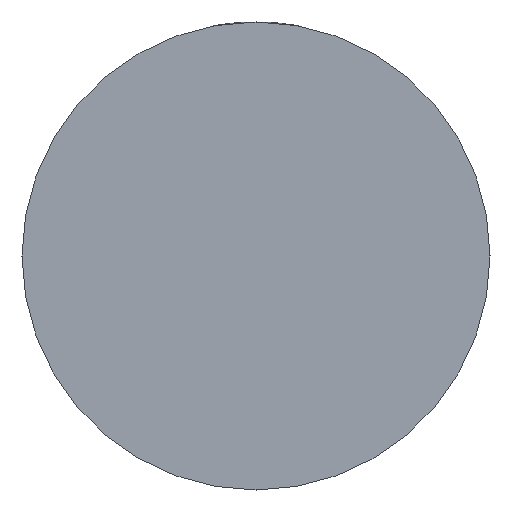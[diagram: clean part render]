
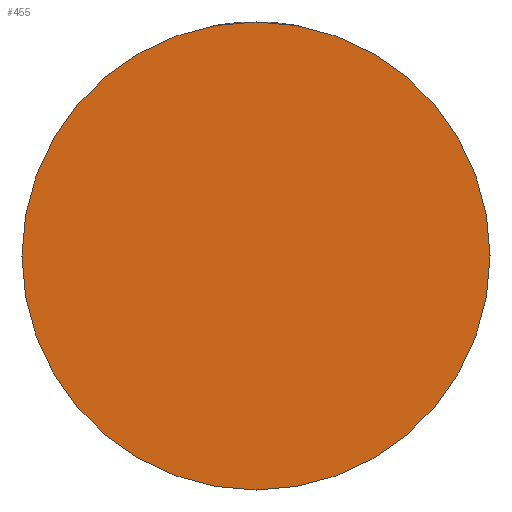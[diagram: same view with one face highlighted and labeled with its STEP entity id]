
A CAD part, front view. The second image highlights one B-rep face of the part: STEP entity #455.
In plain terms, the highlighted planar face has unit normal (0, -1, 0).
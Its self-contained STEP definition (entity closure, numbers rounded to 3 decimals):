
#6 = VERTEX_POINT ( 'NONE', #1104 ) ;
#18 = EDGE_LOOP ( 'NONE', ( #1592, #33 ) ) ;
#33 = ORIENTED_EDGE ( 'NONE', *, *, #1467, .F. ) ;
#39 = DIRECTION ( 'NONE',  ( 1., 0., 0. ) ) ;
#80 = VERTEX_POINT ( 'NONE', #1474 ) ;
#161 = FACE_OUTER_BOUND ( 'NONE', #18, .T. ) ;
#206 = CARTESIAN_POINT ( 'NONE',  ( 0., 0., 0. ) ) ;
#230 = AXIS2_PLACEMENT_3D ( 'NONE', #1584, #684, #39 ) ;
#244 = DIRECTION ( 'NONE',  ( 0., 1., 0. ) ) ;
#295 = PLANE ( 'NONE',  #230 ) ;
#344 = CIRCLE ( 'NONE', #1517, 60. ) ;
#455 = ADVANCED_FACE ( 'NONE', ( #161 ), #295, .F. ) ;
#468 = AXIS2_PLACEMENT_3D ( 'NONE', #1021, #244, #1324 ) ;
#684 = DIRECTION ( 'NONE',  ( 0., 1., 0. ) ) ;
#725 = DIRECTION ( 'NONE',  ( 0., 1., 0. ) ) ;
#793 = CIRCLE ( 'NONE', #468, 60. ) ;
#1021 = CARTESIAN_POINT ( 'NONE',  ( 0., 0., 0. ) ) ;
#1097 = DIRECTION ( 'NONE',  ( 0., 0., 1. ) ) ;
#1104 = CARTESIAN_POINT ( 'NONE',  ( 0., 0., 60. ) ) ;
#1324 = DIRECTION ( 'NONE',  ( 0., 0., 1. ) ) ;
#1467 = EDGE_CURVE ( 'NONE', #6, #80, #344, .T. ) ;
#1474 = CARTESIAN_POINT ( 'NONE',  ( 0., 0., -60. ) ) ;
#1517 = AXIS2_PLACEMENT_3D ( 'NONE', #206, #725, #1097 ) ;
#1584 = CARTESIAN_POINT ( 'NONE',  ( 0., 0., 0. ) ) ;
#1592 = ORIENTED_EDGE ( 'NONE', *, *, #1596, .F. ) ;
#1596 = EDGE_CURVE ( 'NONE', #80, #6, #793, .T. ) ;
